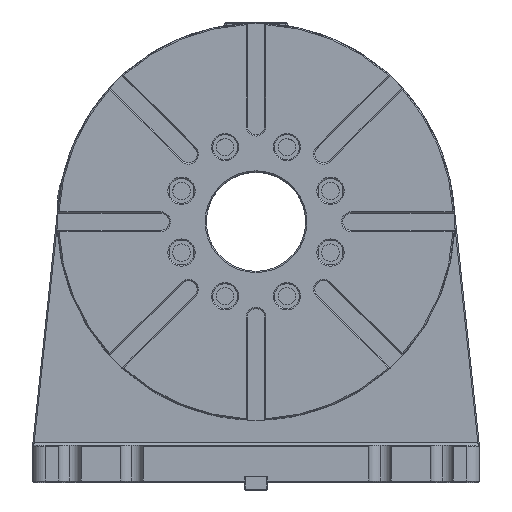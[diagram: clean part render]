
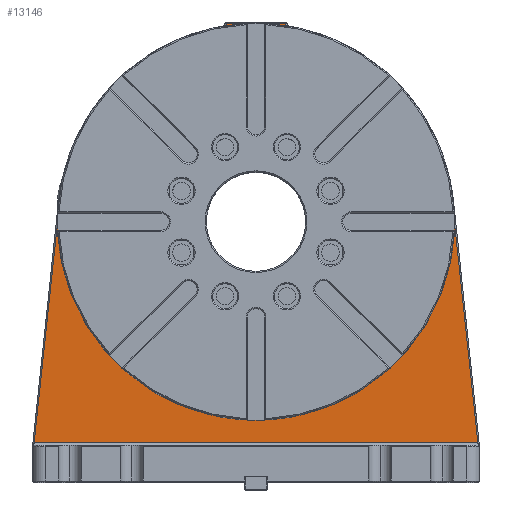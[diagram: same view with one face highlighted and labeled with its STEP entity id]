
A CAD part, top view. The second image highlights one B-rep face of the part: STEP entity #13146.
In plain terms, the highlighted planar face has unit normal (0, 0, 1).
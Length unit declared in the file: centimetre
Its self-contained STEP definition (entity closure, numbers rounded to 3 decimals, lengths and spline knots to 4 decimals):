
#86 = VERTEX_POINT ( 'NONE', #2529 ) ;
#418 = VERTEX_POINT ( 'NONE', #17614 ) ;
#648 = CARTESIAN_POINT ( 'NONE',  ( -2.4, 21., 6. ) ) ;
#722 = ORIENTED_EDGE ( 'NONE', *, *, #17456, .T. ) ;
#900 = CARTESIAN_POINT ( 'NONE',  ( -15.8112, 22.6779, 6. ) ) ;
#1122 = FACE_BOUND ( 'NONE', #3557, .T. ) ;
#1201 = EDGE_LOOP ( 'NONE', ( #2411, #4764, #19756, #7498, #16010, #722, #15209, #14600, #12313, #18616 ) ) ;
#1235 = LINE ( 'NONE', #19935, #19961 ) ;
#1310 = CIRCLE ( 'NONE', #17715, 0.3 ) ;
#1353 = LINE ( 'NONE', #14172, #9132 ) ;
#1482 = CARTESIAN_POINT ( 'NONE',  ( 11.15, 21., 6. ) ) ;
#1929 = VERTEX_POINT ( 'NONE', #8258 ) ;
#2013 = DIRECTION ( 'NONE',  ( -0.106, -0.994, 0. ) ) ;
#2200 = DIRECTION ( 'NONE',  ( -0.106, 0.994, 0. ) ) ;
#2411 = ORIENTED_EDGE ( 'NONE', *, *, #18092, .T. ) ;
#2529 = CARTESIAN_POINT ( 'NONE',  ( -2.65, 36.6776, 6. ) ) ;
#3557 = EDGE_LOOP ( 'NONE', ( #12890, #14171 ) ) ;
#3664 = VECTOR ( 'NONE', #15977, 100. ) ;
#3746 = CARTESIAN_POINT ( 'NONE',  ( 0., 21., 6. ) ) ;
#4074 = DIRECTION ( 'NONE',  ( 1., 0., 0. ) ) ;
#4511 = EDGE_CURVE ( 'NONE', #18355, #1929, #15808, .T. ) ;
#4764 = ORIENTED_EDGE ( 'NONE', *, *, #8886, .T. ) ;
#4823 = LINE ( 'NONE', #12228, #21353 ) ;
#4868 = PLANE ( 'NONE',  #17512 ) ;
#4880 = EDGE_CURVE ( 'NONE', #21006, #5372, #1353, .T. ) ;
#4887 = DIRECTION ( 'NONE',  ( 0., 0., -1. ) ) ;
#5167 = CARTESIAN_POINT ( 'NONE',  ( 0., 21., 6. ) ) ;
#5222 = CIRCLE ( 'NONE', #18928, 0.3 ) ;
#5372 = VERTEX_POINT ( 'NONE', #15657 ) ;
#5676 = DIRECTION ( 'NONE',  ( 1., 0., 0. ) ) ;
#5859 = CIRCLE ( 'NONE', #19870, 15.9 ) ;
#6118 = VECTOR ( 'NONE', #11347, 100. ) ;
#6160 = CARTESIAN_POINT ( 'NONE',  ( -17.8782, 3.2, 6. ) ) ;
#6491 = CARTESIAN_POINT ( 'NONE',  ( -2.7, 36.9734, 6. ) ) ;
#6698 = EDGE_CURVE ( 'NONE', #15314, #418, #10910, .T. ) ;
#7245 = DIRECTION ( 'NONE',  ( 1., 0., 0. ) ) ;
#7428 = CARTESIAN_POINT ( 'NONE',  ( 0., 21., 6. ) ) ;
#7498 = ORIENTED_EDGE ( 'NONE', *, *, #11899, .T. ) ;
#8258 = CARTESIAN_POINT ( 'NONE',  ( -11.15, 21., 6. ) ) ;
#8395 = VERTEX_POINT ( 'NONE', #10707 ) ;
#8886 = EDGE_CURVE ( 'NONE', #11969, #21006, #4823, .T. ) ;
#9111 = CARTESIAN_POINT ( 'NONE',  ( 2.7, 36.9734, 6. ) ) ;
#9132 = VECTOR ( 'NONE', #5676, 100. ) ;
#9438 = DIRECTION ( 'NONE',  ( 0., 1., 0. ) ) ;
#9512 = VERTEX_POINT ( 'NONE', #20251 ) ;
#9516 = CARTESIAN_POINT ( 'NONE',  ( 2.65, 36.6776, 6. ) ) ;
#9969 = EDGE_CURVE ( 'NONE', #8395, #15314, #1235, .T. ) ;
#10028 = DIRECTION ( 'NONE',  ( 1., 0., 0. ) ) ;
#10290 = AXIS2_PLACEMENT_3D ( 'NONE', #16864, #4887, #10028 ) ;
#10707 = CARTESIAN_POINT ( 'NONE',  ( 2.4, 36.9734, 6. ) ) ;
#10720 = AXIS2_PLACEMENT_3D ( 'NONE', #19620, #21260, #11122 ) ;
#10910 = LINE ( 'NONE', #15059, #6118 ) ;
#11122 = DIRECTION ( 'NONE',  ( 1., 0., 0. ) ) ;
#11140 = LINE ( 'NONE', #648, #3664 ) ;
#11312 = FACE_OUTER_BOUND ( 'NONE', #1201, .T. ) ;
#11347 = DIRECTION ( 'NONE',  ( -1., 0., 0. ) ) ;
#11552 = CIRCLE ( 'NONE', #16260, 11.15 ) ;
#11899 = EDGE_CURVE ( 'NONE', #5372, #13906, #16678, .T. ) ;
#11969 = VERTEX_POINT ( 'NONE', #900 ) ;
#12228 = CARTESIAN_POINT ( 'NONE',  ( -17.8793, 3.1894, 6. ) ) ;
#12313 = ORIENTED_EDGE ( 'NONE', *, *, #20533, .T. ) ;
#12890 = ORIENTED_EDGE ( 'NONE', *, *, #4511, .T. ) ;
#13146 = ADVANCED_FACE ( 'NONE', ( #1122, #11312 ), #4868, .T. ) ;
#13478 = VECTOR ( 'NONE', #2200, 100. ) ;
#13497 = DIRECTION ( 'NONE',  ( 1., 0., 0. ) ) ;
#13906 = VERTEX_POINT ( 'NONE', #18126 ) ;
#14171 = ORIENTED_EDGE ( 'NONE', *, *, #15956, .T. ) ;
#14172 = CARTESIAN_POINT ( 'NONE',  ( 0., 3.2, 6. ) ) ;
#14600 = ORIENTED_EDGE ( 'NONE', *, *, #6698, .T. ) ;
#15059 = CARTESIAN_POINT ( 'NONE',  ( 0., 37., 6. ) ) ;
#15209 = ORIENTED_EDGE ( 'NONE', *, *, #9969, .T. ) ;
#15314 = VERTEX_POINT ( 'NONE', #20399 ) ;
#15657 = CARTESIAN_POINT ( 'NONE',  ( 17.8782, 3.2, 6. ) ) ;
#15682 = DIRECTION ( 'NONE',  ( 0., 0., -1. ) ) ;
#15808 = CIRCLE ( 'NONE', #10290, 11.15 ) ;
#15956 = EDGE_CURVE ( 'NONE', #1929, #18355, #11552, .T. ) ;
#15965 = DIRECTION ( 'NONE',  ( 0., 0., -1. ) ) ;
#15977 = DIRECTION ( 'NONE',  ( 0., -1., 0. ) ) ;
#16010 = ORIENTED_EDGE ( 'NONE', *, *, #18708, .T. ) ;
#16260 = AXIS2_PLACEMENT_3D ( 'NONE', #3746, #15682, #7245 ) ;
#16678 = LINE ( 'NONE', #21296, #13478 ) ;
#16864 = CARTESIAN_POINT ( 'NONE',  ( 0., 21., 6. ) ) ;
#17003 = VERTEX_POINT ( 'NONE', #9516 ) ;
#17069 = DIRECTION ( 'NONE',  ( 0., 0., 1. ) ) ;
#17456 = EDGE_CURVE ( 'NONE', #17003, #8395, #1310, .T. ) ;
#17512 = AXIS2_PLACEMENT_3D ( 'NONE', #5167, #17069, #21929 ) ;
#17610 = DIRECTION ( 'NONE',  ( 1., 0., 0. ) ) ;
#17614 = CARTESIAN_POINT ( 'NONE',  ( -2.4, 37., 6. ) ) ;
#17715 = AXIS2_PLACEMENT_3D ( 'NONE', #9111, #15965, #17610 ) ;
#18092 = EDGE_CURVE ( 'NONE', #86, #11969, #5859, .T. ) ;
#18126 = CARTESIAN_POINT ( 'NONE',  ( 15.8112, 22.6779, 6. ) ) ;
#18355 = VERTEX_POINT ( 'NONE', #1482 ) ;
#18560 = DIRECTION ( 'NONE',  ( 0., 0., -1. ) ) ;
#18616 = ORIENTED_EDGE ( 'NONE', *, *, #21914, .T. ) ;
#18708 = EDGE_CURVE ( 'NONE', #13906, #17003, #21615, .T. ) ;
#18928 = AXIS2_PLACEMENT_3D ( 'NONE', #6491, #18560, #13497 ) ;
#19363 = DIRECTION ( 'NONE',  ( 0., 0., 1. ) ) ;
#19620 = CARTESIAN_POINT ( 'NONE',  ( 0., 21., 6. ) ) ;
#19756 = ORIENTED_EDGE ( 'NONE', *, *, #4880, .T. ) ;
#19870 = AXIS2_PLACEMENT_3D ( 'NONE', #7428, #19363, #4074 ) ;
#19935 = CARTESIAN_POINT ( 'NONE',  ( 2.4, 21., 6. ) ) ;
#19961 = VECTOR ( 'NONE', #9438, 100. ) ;
#20251 = CARTESIAN_POINT ( 'NONE',  ( -2.4, 36.9734, 6. ) ) ;
#20399 = CARTESIAN_POINT ( 'NONE',  ( 2.4, 37., 6. ) ) ;
#20533 = EDGE_CURVE ( 'NONE', #418, #9512, #11140, .T. ) ;
#21006 = VERTEX_POINT ( 'NONE', #6160 ) ;
#21260 = DIRECTION ( 'NONE',  ( 0., 0., 1. ) ) ;
#21296 = CARTESIAN_POINT ( 'NONE',  ( 15.8112, 22.6779, 6. ) ) ;
#21353 = VECTOR ( 'NONE', #2013, 100. ) ;
#21615 = CIRCLE ( 'NONE', #10720, 15.9 ) ;
#21914 = EDGE_CURVE ( 'NONE', #9512, #86, #5222, .T. ) ;
#21929 = DIRECTION ( 'NONE',  ( 1., 0., 0. ) ) ;
